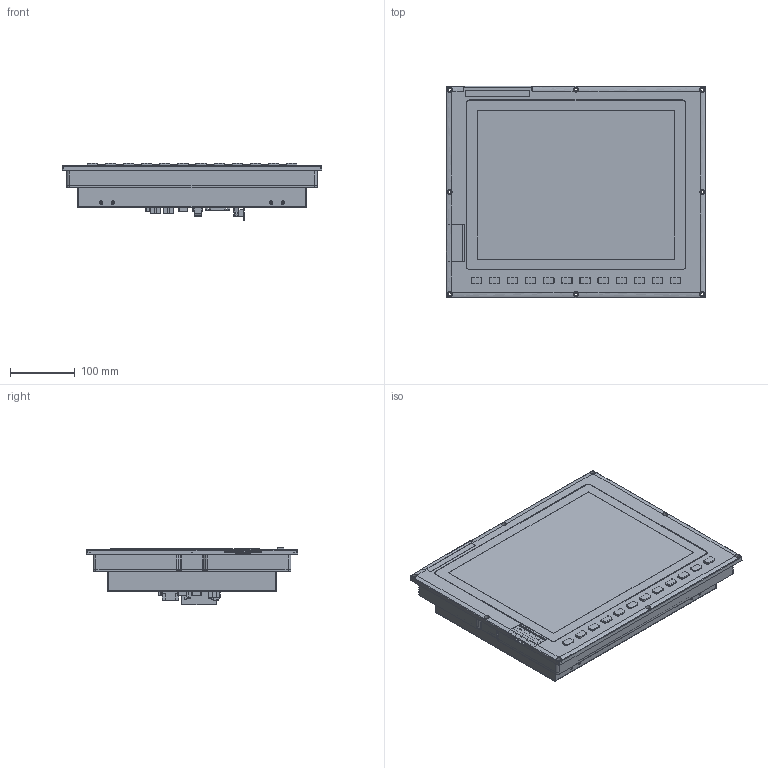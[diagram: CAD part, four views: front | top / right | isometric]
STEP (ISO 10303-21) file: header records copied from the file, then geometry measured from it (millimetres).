
FILE_DESCRIPTION (( 'STEP AP214' ), '1' );
FILE_NAME ('零件3^新15寸塑料面板装配体.STEP', '2022-08-11T06:12:40', ( 'admin' ), ( 'WORKGROUP' ), 'SwSTEP 2.0', 'SolidWorks 2018', '' );
FILE_SCHEMA (( 'AUTOMOTIVE_DESIGN' ));
Length unit declared in the file: millimetre
Products named in the file (2): 零件3^新15寸塑料面板装配体
Bounding box: 400 x 326 x 88.07 mm (x, y, z)
Volume: 6737673.5 mm3; surface area: 583933.3 mm2
Topology: 1 solids, 22 shells, 2421 faces, 6423 edges, 4210 vertices
Faces by surface type: plane 1547, cylinder 644, bspline 160, cone 38, torus 30, sphere 2
Entity records: 86124 total; most frequent: CARTESIAN_POINT 26449, ORIENTED_EDGE 12830, DIRECTION 11606, EDGE_CURVE 6415, LINE 4400, VECTOR 4400, VERTEX_POINT 4210, AXIS2_PLACEMENT_3D 3603
